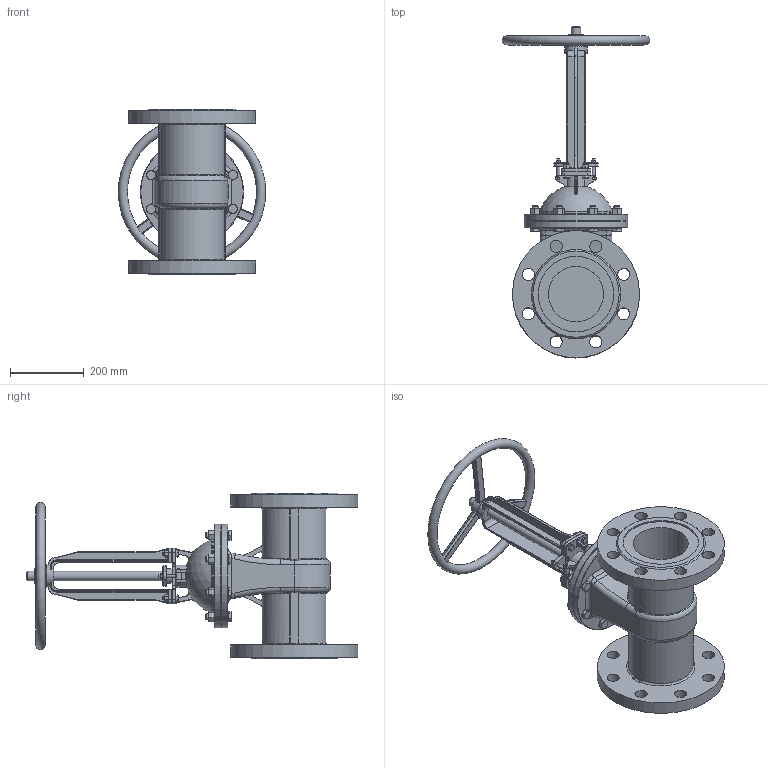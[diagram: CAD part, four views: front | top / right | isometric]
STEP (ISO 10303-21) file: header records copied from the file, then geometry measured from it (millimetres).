
FILE_DESCRIPTION(('STEP AP214'), '1');
FILE_NAME('GVWR3131M-2W-F-S Çàäâèæêà êëèíîâàÿ ñ âûäâèæíûì øòîêîì DN.ru Äó150 Ðó63', '', ('UNSPECIFIED'), ('UNSPECIFIED'), 'C3D Converter', 'C3D Toolkit', '');
FILE_SCHEMA(('AUTOMOTIVE_DESIGN { 1 0 10303 214 3 1 1}'));
Length unit declared in the file: millimetre
Products named in the file (1): GVWR3131M-2W-F-S
Bounding box: 399.95 x 900 x 450 mm (x, y, z)
Surface area: 1422410.9 mm2 (no closed solid volume)
Topology: 0 solids, 1 shells, 1174 faces, 2821 edges, 1701 vertices
Faces by surface type: plane 464, cone 261, cylinder 251, bspline 107, torus 86, sphere 5
Full cylindrical faces by diameter (mm): 7 x4, 8 x4, 10 x8, 15 x2, 16 x20, 24 x4, 25 x2, 30 x1, 33 x16, 40 x3, 50 x1, 60 x1, 150 x2, 200 x2, 205 x2, 280 x2, 345 x2
Entity records: 62741 total; most frequent: CARTESIAN_POINT 32855, ORIENTED_EDGE 5396, DIRECTION 4844, EDGE_CURVE 2701, AXIS2_PLACEMENT_3D 1983, VERTEX_POINT 1696, EDGE_LOOP 1418, FACE_BOUND 1273
